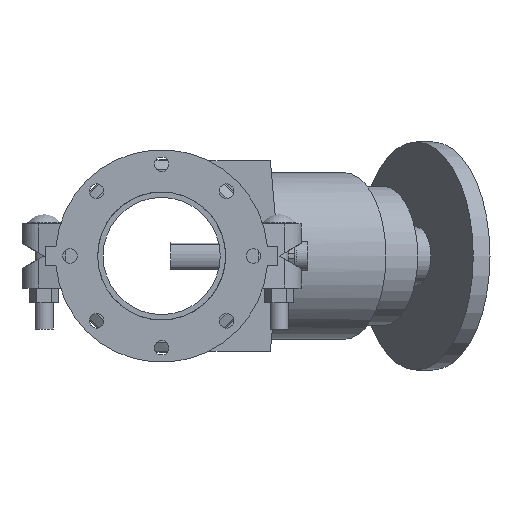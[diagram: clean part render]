
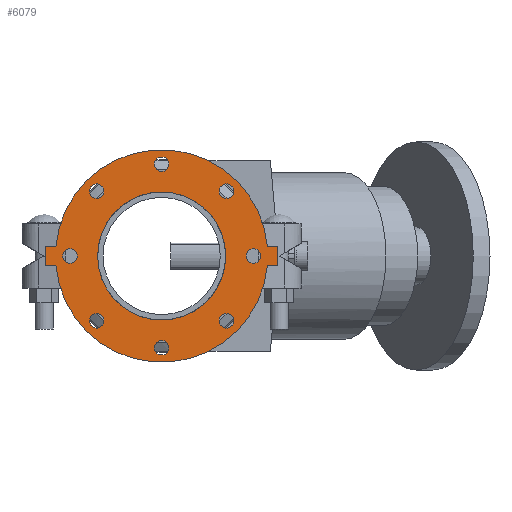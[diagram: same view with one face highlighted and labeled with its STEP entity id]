
A CAD part, front view. The second image highlights one B-rep face of the part: STEP entity #6079.
In plain terms, the highlighted planar face has unit normal (0, -1, 0) as drawn and (0, 0, 1) by its records, which use the part's own axes.
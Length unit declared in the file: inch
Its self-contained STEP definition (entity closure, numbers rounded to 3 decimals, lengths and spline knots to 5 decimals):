
#178=FACE_BOUND('',#792,.T.);
#179=FACE_BOUND('',#793,.T.);
#180=FACE_BOUND('',#794,.T.);
#181=FACE_BOUND('',#795,.T.);
#182=FACE_BOUND('',#796,.T.);
#183=FACE_BOUND('',#797,.T.);
#184=FACE_BOUND('',#798,.T.);
#185=FACE_BOUND('',#799,.T.);
#186=FACE_BOUND('',#800,.T.);
#250=PLANE('',#6633);
#450=FACE_OUTER_BOUND('',#791,.T.);
#791=EDGE_LOOP('',(#3957,#3958,#3959,#3960,#3961,#3962,#3963,#3964));
#792=EDGE_LOOP('',(#3965));
#793=EDGE_LOOP('',(#3966));
#794=EDGE_LOOP('',(#3967));
#795=EDGE_LOOP('',(#3968));
#796=EDGE_LOOP('',(#3969));
#797=EDGE_LOOP('',(#3970));
#798=EDGE_LOOP('',(#3971));
#799=EDGE_LOOP('',(#3972));
#800=EDGE_LOOP('',(#3973,#3974));
#1190=LINE('',#9322,#1635);
#1191=LINE('',#9325,#1636);
#1194=LINE('',#9330,#1639);
#1195=LINE('',#9333,#1640);
#1197=LINE('',#9336,#1642);
#1198=LINE('',#9338,#1643);
#1635=VECTOR('',#7419,0.3937);
#1636=VECTOR('',#7422,0.3937);
#1639=VECTOR('',#7427,0.3937);
#1640=VECTOR('',#7430,0.3937);
#1642=VECTOR('',#7434,0.3937);
#1643=VECTOR('',#7437,0.3937);
#2060=CIRCLE('',#6592,0.375);
#2062=CIRCLE('',#6595,0.375);
#2064=CIRCLE('',#6598,0.375);
#2066=CIRCLE('',#6601,0.375);
#2068=CIRCLE('',#6604,0.375);
#2070=CIRCLE('',#6607,0.375);
#2072=CIRCLE('',#6610,0.375);
#2074=CIRCLE('',#6613,0.375);
#2080=CIRCLE('',#6621,5.5);
#2081=CIRCLE('',#6623,3.3125);
#2082=CIRCLE('',#6624,3.3125);
#2083=CIRCLE('',#6626,5.5);
#2413=VERTEX_POINT('',#9233);
#2415=VERTEX_POINT('',#9239);
#2417=VERTEX_POINT('',#9245);
#2419=VERTEX_POINT('',#9251);
#2421=VERTEX_POINT('',#9257);
#2423=VERTEX_POINT('',#9263);
#2425=VERTEX_POINT('',#9269);
#2427=VERTEX_POINT('',#9275);
#2439=VERTEX_POINT('',#9302);
#2440=VERTEX_POINT('',#9304);
#2441=VERTEX_POINT('',#9308);
#2442=VERTEX_POINT('',#9310);
#2443=VERTEX_POINT('',#9314);
#2444=VERTEX_POINT('',#9316);
#2445=VERTEX_POINT('',#9320);
#2446=VERTEX_POINT('',#9324);
#2447=VERTEX_POINT('',#9328);
#2448=VERTEX_POINT('',#9332);
#3002=EDGE_CURVE('',#2413,#2413,#2060,.T.);
#3005=EDGE_CURVE('',#2415,#2415,#2062,.T.);
#3008=EDGE_CURVE('',#2417,#2417,#2064,.T.);
#3011=EDGE_CURVE('',#2419,#2419,#2066,.T.);
#3014=EDGE_CURVE('',#2421,#2421,#2068,.T.);
#3017=EDGE_CURVE('',#2423,#2423,#2070,.T.);
#3020=EDGE_CURVE('',#2425,#2425,#2072,.T.);
#3023=EDGE_CURVE('',#2427,#2427,#2074,.T.);
#3038=EDGE_CURVE('',#2439,#2440,#2080,.T.);
#3040=EDGE_CURVE('',#2442,#2441,#2081,.T.);
#3041=EDGE_CURVE('',#2441,#2442,#2082,.T.);
#3043=EDGE_CURVE('',#2444,#2443,#2083,.T.);
#3046=EDGE_CURVE('',#2440,#2445,#1190,.T.);
#3047=EDGE_CURVE('',#2446,#2444,#1191,.T.);
#3050=EDGE_CURVE('',#2443,#2447,#1194,.T.);
#3051=EDGE_CURVE('',#2448,#2439,#1195,.T.);
#3053=EDGE_CURVE('',#2447,#2448,#1197,.T.);
#3054=EDGE_CURVE('',#2445,#2446,#1198,.T.);
#3957=ORIENTED_EDGE('',*,*,#3050,.T.);
#3958=ORIENTED_EDGE('',*,*,#3053,.T.);
#3959=ORIENTED_EDGE('',*,*,#3051,.T.);
#3960=ORIENTED_EDGE('',*,*,#3038,.T.);
#3961=ORIENTED_EDGE('',*,*,#3046,.T.);
#3962=ORIENTED_EDGE('',*,*,#3054,.T.);
#3963=ORIENTED_EDGE('',*,*,#3047,.T.);
#3964=ORIENTED_EDGE('',*,*,#3043,.T.);
#3965=ORIENTED_EDGE('',*,*,#3002,.T.);
#3966=ORIENTED_EDGE('',*,*,#3005,.T.);
#3967=ORIENTED_EDGE('',*,*,#3008,.T.);
#3968=ORIENTED_EDGE('',*,*,#3011,.T.);
#3969=ORIENTED_EDGE('',*,*,#3014,.T.);
#3970=ORIENTED_EDGE('',*,*,#3017,.T.);
#3971=ORIENTED_EDGE('',*,*,#3020,.T.);
#3972=ORIENTED_EDGE('',*,*,#3023,.T.);
#3973=ORIENTED_EDGE('',*,*,#3040,.T.);
#3974=ORIENTED_EDGE('',*,*,#3041,.T.);
#6079=ADVANCED_FACE('',(#450,#178,#179,#180,#181,#182,#183,#184,#185,#186),
#250,.T.);
#6592=AXIS2_PLACEMENT_3D('',#9234,#7327,#7328);
#6595=AXIS2_PLACEMENT_3D('',#9240,#7334,#7335);
#6598=AXIS2_PLACEMENT_3D('',#9246,#7341,#7342);
#6601=AXIS2_PLACEMENT_3D('',#9252,#7348,#7349);
#6604=AXIS2_PLACEMENT_3D('',#9258,#7355,#7356);
#6607=AXIS2_PLACEMENT_3D('',#9264,#7362,#7363);
#6610=AXIS2_PLACEMENT_3D('',#9270,#7369,#7370);
#6613=AXIS2_PLACEMENT_3D('',#9276,#7376,#7377);
#6621=AXIS2_PLACEMENT_3D('',#9306,#7401,#7402);
#6623=AXIS2_PLACEMENT_3D('',#9311,#7406,#7407);
#6624=AXIS2_PLACEMENT_3D('',#9312,#7408,#7409);
#6626=AXIS2_PLACEMENT_3D('',#9317,#7413,#7414);
#6633=AXIS2_PLACEMENT_3D('',#9339,#7438,#7439);
#7327=DIRECTION('center_axis',(0.,0.,-1.));
#7328=DIRECTION('ref_axis',(-0.707,0.707,0.));
#7334=DIRECTION('center_axis',(0.,0.,-1.));
#7335=DIRECTION('ref_axis',(0.,1.,0.));
#7341=DIRECTION('center_axis',(0.,0.,-1.));
#7342=DIRECTION('ref_axis',(0.707,0.707,0.));
#7348=DIRECTION('center_axis',(0.,0.,-1.));
#7349=DIRECTION('ref_axis',(1.,0.,0.));
#7355=DIRECTION('center_axis',(0.,0.,-1.));
#7356=DIRECTION('ref_axis',(0.707,-0.707,0.));
#7362=DIRECTION('center_axis',(0.,0.,-1.));
#7363=DIRECTION('ref_axis',(0.,-1.,0.));
#7369=DIRECTION('center_axis',(0.,0.,-1.));
#7370=DIRECTION('ref_axis',(-0.707,-0.707,0.));
#7376=DIRECTION('center_axis',(0.,0.,-1.));
#7377=DIRECTION('ref_axis',(-1.,0.,0.));
#7401=DIRECTION('center_axis',(0.,0.,1.));
#7402=DIRECTION('ref_axis',(-1.,0.,0.));
#7406=DIRECTION('center_axis',(0.,0.,-1.));
#7407=DIRECTION('ref_axis',(-1.,0.,0.));
#7408=DIRECTION('center_axis',(0.,0.,-1.));
#7409=DIRECTION('ref_axis',(-1.,0.,0.));
#7413=DIRECTION('center_axis',(0.,0.,1.));
#7414=DIRECTION('ref_axis',(-1.,0.,0.));
#7419=DIRECTION('',(0.,1.,0.));
#7422=DIRECTION('',(0.,-1.,0.));
#7427=DIRECTION('',(0.,-1.,0.));
#7430=DIRECTION('',(0.,1.,0.));
#7434=DIRECTION('',(1.,0.,0.));
#7437=DIRECTION('',(-1.,0.,0.));
#7438=DIRECTION('center_axis',(0.,0.,1.));
#7439=DIRECTION('ref_axis',(1.,0.,0.));
#9233=CARTESIAN_POINT('',(-3.09359,3.09359,0.5));
#9234=CARTESIAN_POINT('Origin',(-3.35876,3.35876,0.5));
#9239=CARTESIAN_POINT('',(0.,4.375,0.5));
#9240=CARTESIAN_POINT('Origin',(0.,4.75,0.5));
#9245=CARTESIAN_POINT('',(3.09359,3.09359,0.5));
#9246=CARTESIAN_POINT('Origin',(3.35876,3.35876,0.5));
#9251=CARTESIAN_POINT('',(4.375,0.,0.5));
#9252=CARTESIAN_POINT('Origin',(4.75,0.,0.5));
#9257=CARTESIAN_POINT('',(3.09359,-3.09359,0.5));
#9258=CARTESIAN_POINT('Origin',(3.35876,-3.35876,0.5));
#9263=CARTESIAN_POINT('',(0.,-4.375,0.5));
#9264=CARTESIAN_POINT('Origin',(0.,-4.75,0.5));
#9269=CARTESIAN_POINT('',(-3.09359,-3.09359,0.5));
#9270=CARTESIAN_POINT('Origin',(-3.35876,-3.35876,0.5));
#9275=CARTESIAN_POINT('',(-4.375,0.,0.5));
#9276=CARTESIAN_POINT('Origin',(-4.75,0.,0.5));
#9302=CARTESIAN_POINT('',(0.5,-5.47723,0.5));
#9304=CARTESIAN_POINT('',(0.5,5.47723,0.5));
#9306=CARTESIAN_POINT('Origin',(0.,0.,0.5));
#9308=CARTESIAN_POINT('',(3.3125,0.,0.5));
#9310=CARTESIAN_POINT('',(0.5,3.27455,0.5));
#9311=CARTESIAN_POINT('Origin',(0.,0.,0.5));
#9312=CARTESIAN_POINT('Origin',(0.,0.,0.5));
#9314=CARTESIAN_POINT('',(-0.5,-5.47723,0.5));
#9316=CARTESIAN_POINT('',(-0.5,5.47723,0.5));
#9317=CARTESIAN_POINT('Origin',(0.,0.,0.5));
#9320=CARTESIAN_POINT('',(0.5,6.,0.5));
#9322=CARTESIAN_POINT('',(0.5,6.,0.5));
#9324=CARTESIAN_POINT('',(-0.5,6.,0.5));
#9325=CARTESIAN_POINT('',(-0.5,-6.,0.5));
#9328=CARTESIAN_POINT('',(-0.5,-6.,0.5));
#9330=CARTESIAN_POINT('',(-0.5,-6.,0.5));
#9332=CARTESIAN_POINT('',(0.5,-6.,0.5));
#9333=CARTESIAN_POINT('',(0.5,6.,0.5));
#9336=CARTESIAN_POINT('',(0.5,-6.,0.5));
#9338=CARTESIAN_POINT('',(-0.5,6.,0.5));
#9339=CARTESIAN_POINT('Origin',(0.,0.,0.5));
